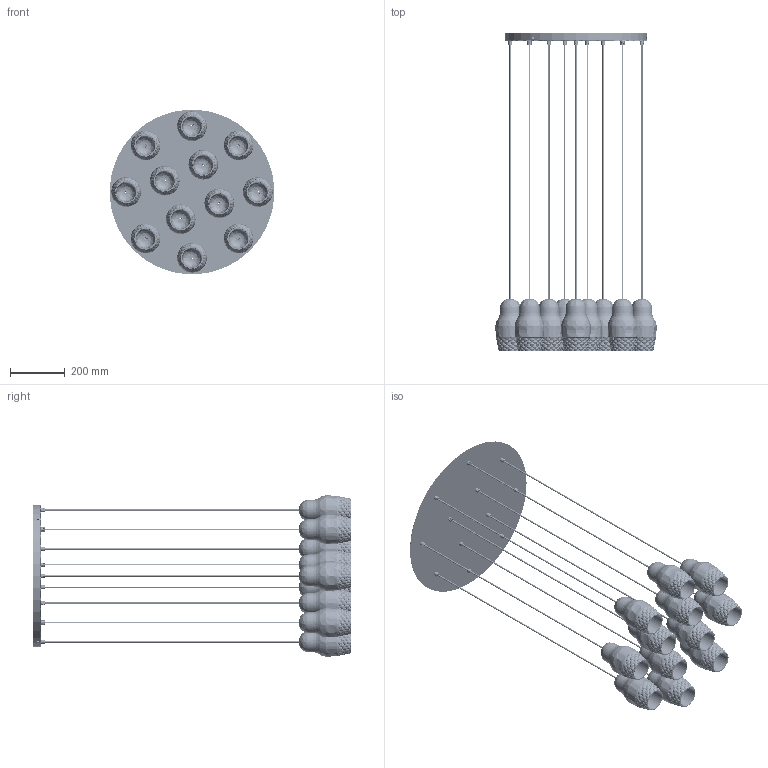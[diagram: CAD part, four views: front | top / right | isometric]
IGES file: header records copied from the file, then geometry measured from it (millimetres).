
Start section: SolidWorks IGES file using analytic representation for surfaces
Global section: file name: \\STORAGE\Tecnico Condiviso\1 FASCICOLI TECNICI\AXO DESIGN\AXO007-FEDORA\20150702-FEDORA CE\SP12\SW\SPFEDORA12-PER 3D.IGS; native system: SolidWorks 2024; preprocessor: SolidWorks 2024; author: tecnico3; date: 240529.171730; units: millimetre
Bounding box: 600 x 1162.53 x 600 mm (x, y, z)
Surface area: 2869355.1 mm2 (no closed solid volume)
Topology: 0 solids, 0 shells, 4286 faces, 44526 edges, 44526 vertices
Faces by surface type: bspline 3775, revolution 511
